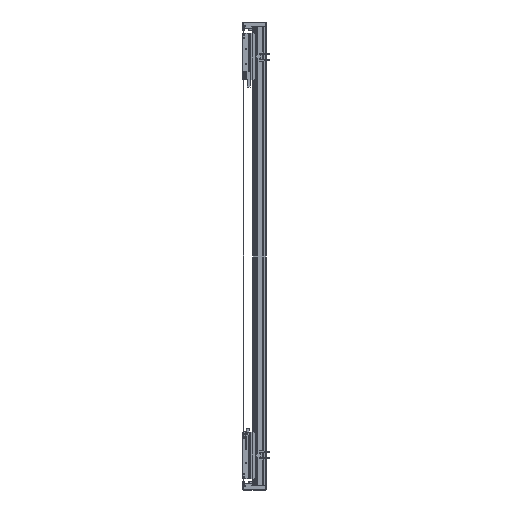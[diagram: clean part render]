
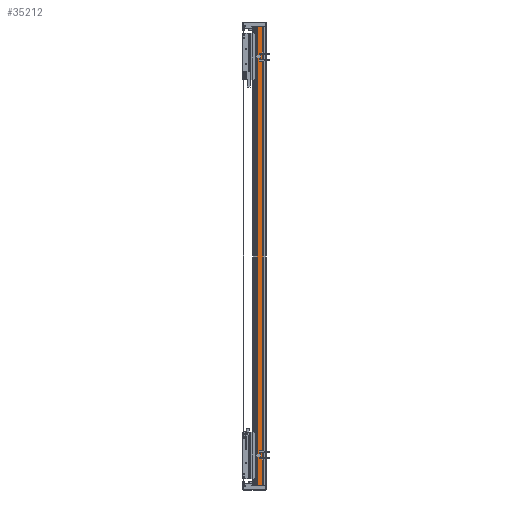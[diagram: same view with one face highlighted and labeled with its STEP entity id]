
A CAD part, left-side view. The second image highlights one B-rep face of the part: STEP entity #35212.
In plain terms, the highlighted planar face has unit normal (-1, 0, 0).
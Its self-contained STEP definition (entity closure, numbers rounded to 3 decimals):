
#5645 = VECTOR ( 'NONE', #36595, 1000. ) ;
#8695 = CARTESIAN_POINT ( 'NONE',  ( -82.5, 36.95, 930. ) ) ;
#9665 = CARTESIAN_POINT ( 'NONE',  ( -82.5, 14.45, 930. ) ) ;
#10489 = DIRECTION ( 'NONE',  ( 0., 0., -1. ) ) ;
#18813 = DIRECTION ( 'NONE',  ( 0., 1., 0. ) ) ;
#20908 = ORIENTED_EDGE ( 'NONE', *, *, #28623, .F. ) ;
#26489 = ORIENTED_EDGE ( 'NONE', *, *, #81889, .T. ) ;
#26712 = CARTESIAN_POINT ( 'NONE',  ( -82.5, 36.95, 930. ) ) ;
#28623 = EDGE_CURVE ( 'NONE', #100615, #117107, #54615, .T. ) ;
#34838 = CARTESIAN_POINT ( 'NONE',  ( -82.5, 36.95, 930. ) ) ;
#35212 = ADVANCED_FACE ( 'NONE', ( #46381 ), #94272, .F. ) ;
#36595 = DIRECTION ( 'NONE',  ( 0., -1., 0. ) ) ;
#42195 = CARTESIAN_POINT ( 'NONE',  ( -82.5, 14.45, 930. ) ) ;
#46381 = FACE_OUTER_BOUND ( 'NONE', #74274, .T. ) ;
#48751 = CARTESIAN_POINT ( 'NONE',  ( -82.5, 36.95, 930. ) ) ;
#53879 = LINE ( 'NONE', #89799, #112971 ) ;
#54615 = LINE ( 'NONE', #34838, #5645 ) ;
#56222 = AXIS2_PLACEMENT_3D ( 'NONE', #48751, #100866, #18813 ) ;
#63298 = LINE ( 'NONE', #26712, #103597 ) ;
#70489 = CARTESIAN_POINT ( 'NONE',  ( -82.5, 14.45, -930. ) ) ;
#74274 = EDGE_LOOP ( 'NONE', ( #26489, #95366, #20908, #87354 ) ) ;
#74585 = CARTESIAN_POINT ( 'NONE',  ( -82.5, 36.95, -930. ) ) ;
#78381 = EDGE_CURVE ( 'NONE', #117107, #92952, #91759, .T. ) ;
#80795 = DIRECTION ( 'NONE',  ( 0., -1., 0. ) ) ;
#81889 = EDGE_CURVE ( 'NONE', #110334, #92952, #53879, .T. ) ;
#87354 = ORIENTED_EDGE ( 'NONE', *, *, #106783, .T. ) ;
#89799 = CARTESIAN_POINT ( 'NONE',  ( -82.5, 36.95, -930. ) ) ;
#91165 = DIRECTION ( 'NONE',  ( 0., 0., -1. ) ) ;
#91759 = LINE ( 'NONE', #9665, #110338 ) ;
#92952 = VERTEX_POINT ( 'NONE', #70489 ) ;
#94272 = PLANE ( 'NONE',  #56222 ) ;
#95366 = ORIENTED_EDGE ( 'NONE', *, *, #78381, .F. ) ;
#100615 = VERTEX_POINT ( 'NONE', #8695 ) ;
#100866 = DIRECTION ( 'NONE',  ( 1., 0., 0. ) ) ;
#103597 = VECTOR ( 'NONE', #10489, 1000. ) ;
#106783 = EDGE_CURVE ( 'NONE', #100615, #110334, #63298, .T. ) ;
#110334 = VERTEX_POINT ( 'NONE', #74585 ) ;
#110338 = VECTOR ( 'NONE', #91165, 1000. ) ;
#112971 = VECTOR ( 'NONE', #80795, 1000. ) ;
#117107 = VERTEX_POINT ( 'NONE', #42195 ) ;
